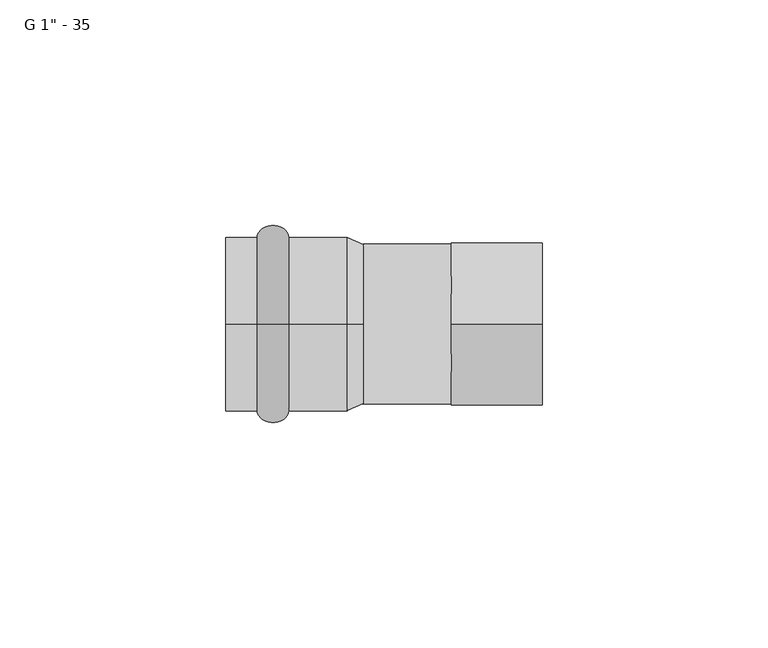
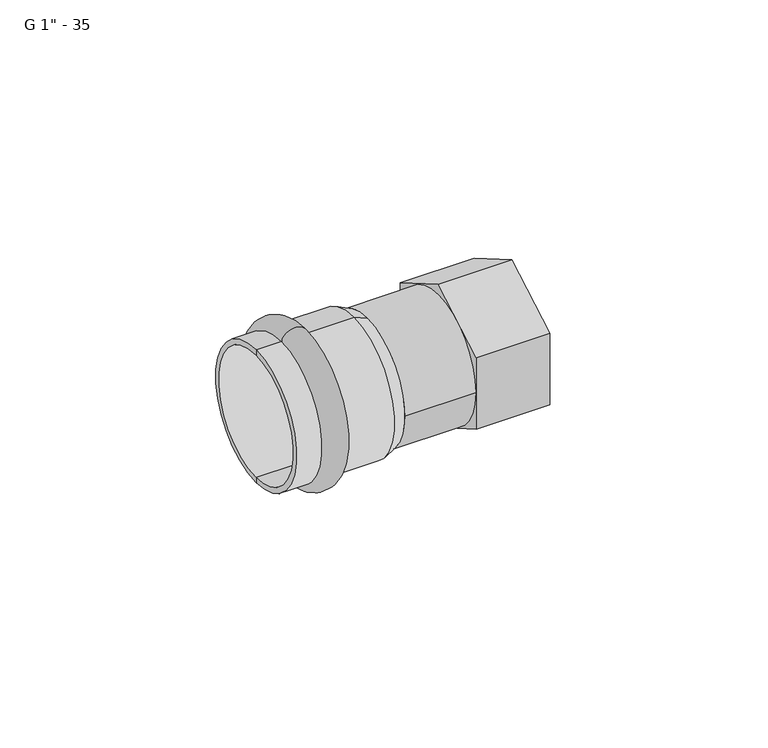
"""IFC4 building model written with IfcOpenShell, lengths in millimetres: pipe fitting geometry."""

from ifc_helpers import new_model, si_unit, point, frame, origin, origin_2d, place, context, project, spatial, polyline, circle_curve, ellipse_curve, trimmed, segment, composite_curve, outline, extrude, source, transform, mapped, element, save
from ifc_brep_helpers import plane_surface, cylinder_surface, revolved_surface, advanced_brep


def pipe_fitting_0ba09045(model_context):
    return source(origin(), model_context, "Body", "SolidModel", [
        advanced_brep(
        [(-20.0, 0.0, 19.25), (-20.0, 0.0, -19.25), (-13.0, 0.0, -19.25), (-13.0, 0.0, 19.25)],
        [
            (0, 1, circle_curve(frame((-20.0, 0.0, 0.0), z_axis=(-1.0, 0.0, 0.0), x_axis=(0.0, 0.0, -1.0)), 19.25)),
            (1, 2),
            (2, 3, circle_curve(frame((-13.0, 0.0, 0.0), z_axis=(1.0, 0.0, 0.0), x_axis=(0.0, 0.0, -1.0)), 19.25)),
            (3, 0),
            (1, 0, circle_curve(frame((-20.0, 0.0, 0.0), z_axis=(-1.0, 0.0, 0.0), x_axis=(0.0, 0.0, -1.0)), 19.25)),
            (3, 2, circle_curve(frame((-13.0, 0.0, 0.0), z_axis=(1.0, 0.0, 0.0), x_axis=(0.0, 0.0, -1.0)), 19.25)),
            (2, 1, ellipse_curve(frame((-16.5, 0.0, -19.25), z_axis=(0.0, 1.0, 0.0), x_axis=(-1.0, 0.0, 0.0)), 3.5, 2.75)),
            (0, 3, ellipse_curve(frame((-16.5, 0.0, 19.25), z_axis=(0.0, 1.0, 0.0), x_axis=(-1.0, 0.0, 0.0)), 3.5, 2.75)),
        ],
        [
            revolved_surface(polyline([(-13.0, 0.0, -19.25), (-20.0, 0.0, -19.25)]), (3.0, 0.0, 0.0), (1.0, 0.0, 0.0)),
            revolved_surface(trimmed(ellipse_curve(frame((-16.5, 0.0, -19.25), z_axis=(0.0, -1.0, 0.0), x_axis=(-1.0, 0.0, 0.0)), 3.5, 2.75), [point((-20.0, 0.0, -19.25))], [point((-13.0, 0.0, -19.25))], True, "CARTESIAN"), (3.0, 0.0, 0.0), (1.0, 0.0, 0.0)),
        ],
        [
            (0, [[1, 2, 3, 4]]),
            (0, [[5, -4, 6, -2]]),
            (1, [[-3, 7, -1, 8]]),
            (1, [[-6, -8, -5, -7]]),
        ],
    ),
        advanced_brep(
        [(3.5337785, 0.0, 17.75), (3.5337785, 0.0, -17.75), (0.0, 0.0, -19.25), (0.0, 0.0, 19.25), (-27.0, 0.0, 17.75), (-27.0, 0.0, -17.75), (-27.0, 0.0, 19.25), (-27.0, 0.0, -19.25)],
        [
            (0, 1, circle_curve(frame((3.5337785, 0.0, 0.0), z_axis=(-1.0, 0.0, 0.0), x_axis=(0.0, 0.0, -1.0)), 17.75)),
            (1, 2),
            (2, 3, circle_curve(frame((0.0, 0.0, 0.0), z_axis=(1.0, 0.0, 0.0), x_axis=(0.0, 0.0, -1.0)), 19.25)),
            (3, 0),
            (1, 0, circle_curve(frame((3.5337785, 0.0, 0.0), z_axis=(-1.0, 0.0, 0.0), x_axis=(0.0, 0.0, -1.0)), 17.75)),
            (3, 2, circle_curve(frame((0.0, 0.0, 0.0), z_axis=(1.0, 0.0, 0.0), x_axis=(0.0, 0.0, -1.0)), 19.25)),
            (4, 5, circle_curve(frame((-27.0, 0.0, 0.0), z_axis=(-1.0, 0.0, 0.0), x_axis=(0.0, 0.0, -1.0)), 17.75)),
            (5, 1),
            (0, 4),
            (5, 4, circle_curve(frame((-27.0, 0.0, 0.0), z_axis=(-1.0, 0.0, 0.0), x_axis=(0.0, 0.0, -1.0)), 17.75)),
            (6, 7, circle_curve(frame((-27.0, 0.0, 0.0), z_axis=(-1.0, 0.0, 0.0), x_axis=(0.0, 0.0, -1.0)), 19.25)),
            (7, 5),
            (4, 6),
            (7, 6, circle_curve(frame((-27.0, 0.0, 0.0), z_axis=(-1.0, 0.0, 0.0), x_axis=(0.0, 0.0, -1.0)), 19.25)),
            (2, 7),
            (6, 3),
        ],
        [
            revolved_surface(polyline([(0.0, 0.0, -19.25), (3.5337785, 0.0, -17.75)]), (3.0, 0.0, 0.0), (1.0, 0.0, 0.0)),
            revolved_surface(polyline([(3.5337785, 0.0, -17.75), (-27.0, 0.0, -17.75)]), (3.0, 0.0, 0.0), (1.0, 0.0, 0.0)),
            plane_surface(frame((-27.0, 0.0, 0.0), z_axis=(-1.0, 0.0, 0.0), x_axis=(0.0, 0.0, -1.0))),
            cylinder_surface(frame((3.0, 0.0, 0.0), z_axis=(1.0, 0.0, 0.0), x_axis=(0.0, 0.0, -1.0)), 19.25),
        ],
        [
            (0, [[1, 2, 3, 4]]),
            (0, [[5, -4, 6, -2]]),
            (1, [[7, 8, -1, 9]]),
            (1, [[10, -9, -5, -8]]),
            (2, [[11, 12, -7, 13]]),
            (2, [[14, -13, -10, -12]]),
            (3, [[-3, 15, -11, 16]]),
            (3, [[-6, -16, -14, -15]]),
        ],
    ),
        extrude(outline(composite_curve([segment(trimmed(circle_curve(origin_2d(), 17.75), [point((-17.75, 0.0))], [point((17.75, 0.0))], False, "CARTESIAN"), True, "CONTINUOUS"), segment(trimmed(circle_curve(origin_2d(), 17.75), [point((17.75, 0.0))], [point((-17.75, 0.0))], False, "CARTESIAN"), True, "CONTINUOUS")], self_intersect=False)), frame((3.5337785, 0.0, 0.0), z_axis=(1.0, 0.0, 0.0), x_axis=(0.0, 1.0, 0.0)), (0.0, 0.0, 1.0), 19.5),
        advanced_brep(
        [(43.2337785, -18.0, -10.3923048), (23.0337785, -18.0, -10.3923048), (23.0337785, 0.0, -20.7846097), (43.2337785, 0.0, -20.7846097), (23.0337785, 18.0, -10.3923048), (43.2337785, 18.0, -10.3923048), (43.2337785, 18.0, 10.3923048), (23.0337785, 18.0, 10.3923048), (23.0337785, 0.0, 20.7846097), (43.2337785, 0.0, 20.7846097), (23.0337785, -18.0, 10.3923048), (43.2337785, -18.0, 10.3923048), (43.2337785, -16.75, 0.0), (43.2337785, 16.75, 0.0), (23.0337785, -8.0, -4.6188022), (23.0337785, 0.0, -9.2376043), (23.0337785, 8.0, -4.6188022), (23.0337785, 8.0, 4.6188022), (23.0337785, 0.0, 9.2376043), (23.0337785, -8.0, 4.6188022), (27.8337785, -16.75, 0.0), (27.8337785, 16.75, 0.0), (27.8337785, 0.0, -9.2376043), (27.8337785, -8.0, -4.6188022), (27.8337785, -8.0, 4.6188022), (27.8337785, 0.0, 9.2376043), (27.8337785, 8.0, 4.6188022), (27.8337785, 8.0, -4.6188022)],
        [
            (0, 1),
            (1, 2),
            (2, 3),
            (3, 0),
            (2, 4),
            (4, 5),
            (5, 3),
            (6, 7),
            (7, 8),
            (8, 9),
            (9, 6),
            (8, 10),
            (10, 11),
            (11, 9),
            (4, 7),
            (6, 5),
            (11, 0),
            (12, 13, circle_curve(frame((43.2337785, 0.0, 0.0), z_axis=(-1.0, 0.0, 0.0), x_axis=(0.0, 1.0, 0.0)), 16.75)),
            (13, 12, circle_curve(frame((43.2337785, 0.0, 0.0), z_axis=(-1.0, 0.0, 0.0), x_axis=(0.0, 1.0, 0.0)), 16.75)),
            (1, 10),
            (14, 15),
            (15, 16),
            (16, 17),
            (17, 18),
            (18, 19),
            (19, 14),
            (20, 21, circle_curve(frame((27.8337785, 0.0, 0.0), z_axis=(1.0, 0.0, 0.0), x_axis=(0.0, 1.0, 0.0)), 16.75)),
            (21, 20, circle_curve(frame((27.8337785, 0.0, 0.0), z_axis=(1.0, 0.0, 0.0), x_axis=(0.0, 1.0, 0.0)), 16.75)),
            (22, 23),
            (23, 24),
            (24, 25),
            (25, 26),
            (26, 27),
            (27, 22),
            (21, 13),
            (12, 20),
            (14, 23),
            (22, 15),
            (27, 16),
            (17, 26),
            (25, 18),
            (24, 19),
        ],
        [
            plane_surface(frame((23.0337785, -18.0, -10.3923048), z_axis=(0.0, -0.5000000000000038, -0.8660254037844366), x_axis=(0.0, 0.8660254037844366, -0.5000000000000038))),
            plane_surface(frame((23.0337785, 0.0, -20.7846097), z_axis=(0.0, 0.49999999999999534, -0.8660254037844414), x_axis=(0.0, 0.8660254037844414, 0.49999999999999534))),
            plane_surface(frame((23.0337785, 18.0, 10.3923048), z_axis=(0.0, 0.5000000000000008, 0.8660254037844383), x_axis=(0.0, -0.8660254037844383, 0.5000000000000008))),
            plane_surface(frame((23.0337785, 0.0, 20.7846097), z_axis=(0.0, -0.4999999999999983, 0.8660254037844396), x_axis=(0.0, -0.8660254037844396, -0.4999999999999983))),
            plane_surface(frame((23.0337785, 18.0, -10.3923048), z_axis=(0.0, 1.0, 0.0), x_axis=(0.0, 0.0, 1.0))),
            plane_surface(frame((43.2337785, -18.0, 10.3923048), z_axis=(1.0, 0.0, 0.0), x_axis=(0.0, 0.0, -1.0))),
            plane_surface(frame((23.0337785, -8.0, 4.6188022), z_axis=(-1.0, 0.0, 0.0), x_axis=(0.0, 0.0, -1.0))),
            plane_surface(frame((23.0337785, -18.0, 10.3923048), z_axis=(0.0, -1.0, 0.0), x_axis=(0.0, 0.0, -1.0))),
            plane_surface(frame((27.8337785, 16.75, 0.0), z_axis=(1.0, 0.0, 0.0), x_axis=(0.0, 0.0, -1.0))),
            revolved_surface(polyline([(43.2337785, 16.75, 0.0), (27.8337785, 16.75, 0.0)]), (27.8337785, 0.0, 0.0), (1.0, 0.0, 0.0)),
            plane_surface(frame((43.2337785, -8.0, -4.6188022), z_axis=(0.0, 0.5000000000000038, 0.8660254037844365), x_axis=(0.0, 0.8660254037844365, -0.5000000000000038))),
            plane_surface(frame((43.2337785, 0.0, -9.2376043), z_axis=(0.0, -0.4999999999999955, 0.8660254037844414), x_axis=(0.0, 0.8660254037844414, 0.4999999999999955))),
            plane_surface(frame((43.2337785, 8.0, 4.6188022), z_axis=(0.0, -0.5000000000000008, -0.8660254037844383), x_axis=(0.0, -0.8660254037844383, 0.5000000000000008))),
            plane_surface(frame((43.2337785, 0.0, 9.2376043), z_axis=(0.0, 0.49999999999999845, -0.8660254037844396), x_axis=(0.0, -0.8660254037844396, -0.49999999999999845))),
            plane_surface(frame((43.2337785, 8.0, -4.6188022), z_axis=(0.0, -1.0, 0.0), x_axis=(0.0, 0.0, 1.0))),
            plane_surface(frame((43.2337785, -8.0, 4.6188022), z_axis=(0.0, 1.0, 0.0), x_axis=(0.0, 0.0, -1.0))),
        ],
        [
            (0, [[1, 2, 3, 4]]),
            (1, [[-3, 5, 6, 7]]),
            (2, [[8, 9, 10, 11]]),
            (3, [[-10, 12, 13, 14]]),
            (4, [[-6, 15, -8, 16]]),
            (5, [[-4, -7, -16, -11, -14, 17], [18, 19]]),
            (6, [[-2, 20, -12, -9, -15, -5], [21, 22, 23, 24, 25, 26]]),
            (7, [[-1, -17, -13, -20]]),
            (8, [[27, 28], [29, 30, 31, 32, 33, 34]]),
            (9, [[-28, 35, -18, 36]]),
            (9, [[-27, -36, -19, -35]]),
            (10, [[-21, 37, -29, 38]]),
            (11, [[-22, -38, -34, 39]]),
            (12, [[-24, 40, -32, 41]]),
            (13, [[-25, -41, -31, 42]]),
            (14, [[-23, -39, -33, -40]]),
            (15, [[-26, -42, -30, -37]]),
        ],
    ),
    ])


if __name__ == "__main__":
    model = new_model("IFC4")
    model_context = context("Model", 3, world=origin())
    ifc_project = project(units=[si_unit("LENGTHUNIT", "METRE", prefix="MILLI")], contexts=[model_context])
    site = spatial("IfcSite", under=ifc_project)
    building = spatial("IfcBuilding", under=site)
    placement = place(None, origin())
    pipe_fitting_shape = pipe_fitting_0ba09045(model_context)
    element("IfcPipeFitting", 1, ObjectType="РЕХАУ_Пресс Муфта с накидной гайкой : G 1\" - 35", at=placement, inside=building, context=model_context, shape_type="MappedRepresentation", body=[
        mapped(pipe_fitting_shape, transform((0.0, 0.0, 0.0), x_axis=(1.0, 0.0, 0.0), y_axis=(0.0, 1.0, 0.0), z_axis=(0.0, 0.0, 1.0))),
    ])
    save(model, "model.ifc")
